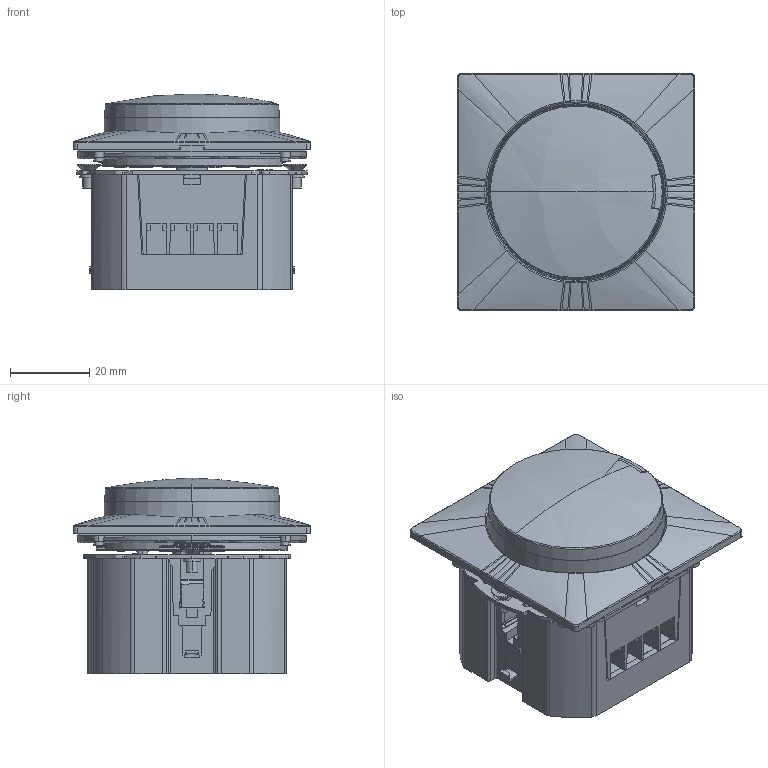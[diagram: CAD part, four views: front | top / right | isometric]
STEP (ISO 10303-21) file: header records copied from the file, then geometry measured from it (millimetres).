
FILE_DESCRIPTION((''),'2;1');
FILE_NAME('406001-10VF61_ASM','2022-05-31T18:44:07',('SESA652142'),('Schneider-Electric'),'CREO PARAMETRIC BY PTC INC, 2019471','CREO PARAMETRIC BY PTC INC, 2019471','');
FILE_SCHEMA(('AUTOMOTIVE_DESIGN { 1 0 10303 214 1 1 1 1 }'));
Products named in the file (10): 221391_1_C_1_1; 221389_1_C_1_1; 221390-S_1_C_1_1; 221394_1_C_1_1; 123456_ASM_1_ASM_1_ASM; 40420RLCF6114_1; FUSE_CARRIER_ZZ0038_1; 406001-10VBSE_ASM_1_ASM; 406001-10VF61_ASM_1_ASM; 406001-10VF61_ASM
Assembly tree (9 placements, depth 4):
  406001-10VF61_ASM
    406001-10VF61_ASM_1_ASM
      123456_ASM_1_ASM_1_ASM
        221391_1_C_1_1
        221389_1_C_1_1
        221390-S_1_C_1_1
        221394_1_C_1_1
      406001-10VBSE_ASM_1_ASM
        40420RLCF6114_1
        FUSE_CARRIER_ZZ0038_1
Bounding box: 59.7 x 59.7 x 49.3 mm (x, y, z)
Volume: 79571.2 mm3; surface area: 38992.8 mm2
Topology: 6 solids, 6 shells, 2018 faces, 5579 edges, 3550 vertices
Faces by surface type: plane 860, cylinder 468, bspline 252, extrusion 238, torus 84, cone 66, sphere 50
Entity records: 86552 total; most frequent: CARTESIAN_POINT 37501, ORIENTED_EDGE 11060, DIRECTION 8753, EDGE_CURVE 5530, VERTEX_POINT 3551, VECTOR 3009, AXIS2_PLACEMENT_3D 2872, LINE 2771
